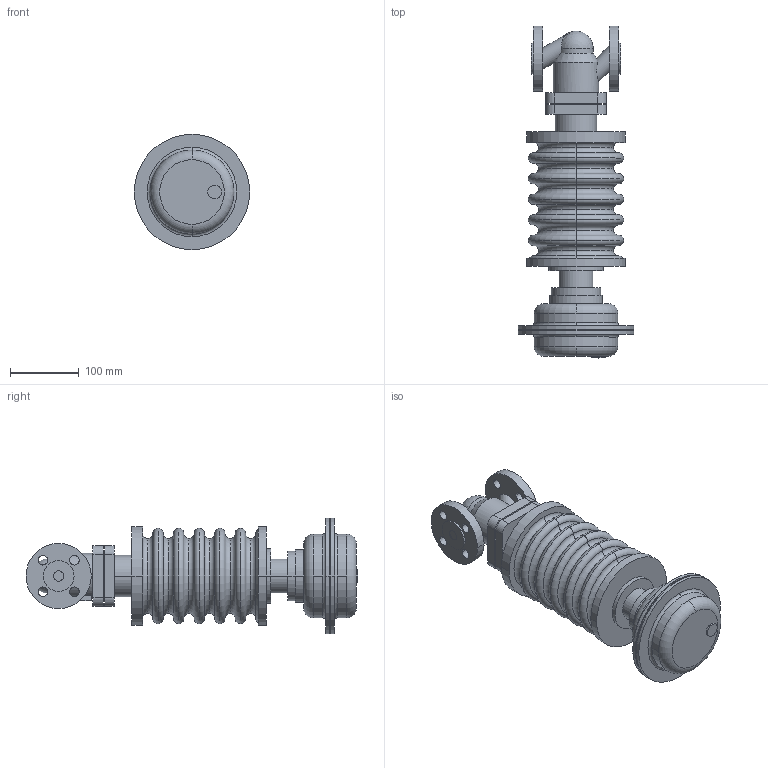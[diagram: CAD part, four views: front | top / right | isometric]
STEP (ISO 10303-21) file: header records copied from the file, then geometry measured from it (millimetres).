
FILE_DESCRIPTION( ( '' ), '1' );
FILE_NAME( 'F:/DE-SHS/TB/OR/04-Sonstiges/daten/files_3d/701-PREDU/PREDU-PN16/c000006484.stp', '2016-11-24T10:30:14', ( '' ), ( '' ), ' ', ' ', ' ' );
FILE_SCHEMA( ( 'CONFIG_CONTROL_DESIGN' ) );
Length unit declared in the file: millimetre
Products named in the file (2): 1; 2
Bounding box: 168 x 483.5 x 168 mm (x, y, z)
Volume: 4402931.9 mm3; surface area: 328704.1 mm2
Topology: 2 solids, 2 shells, 179 faces, 426 edges, 274 vertices
Faces by surface type: cylinder 72, torus 54, plane 50, cone 2, sphere 1
Entity records: 5718 total; most frequent: CARTESIAN_POINT 1209, DIRECTION 1056, ORIENTED_EDGE 848, AXIS2_PLACEMENT_3D 463, EDGE_CURVE 424, CIRCLE 276, VERTEX_POINT 274, EDGE_LOOP 220
